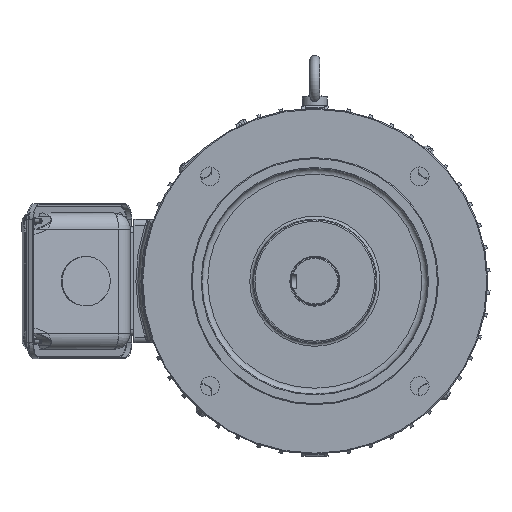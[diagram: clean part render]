
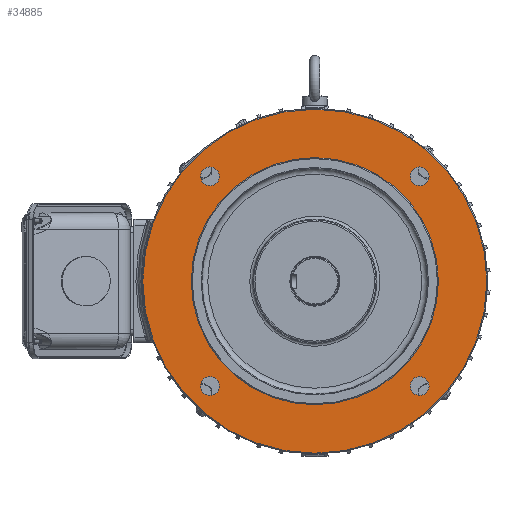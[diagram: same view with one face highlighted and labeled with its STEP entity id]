
A CAD part, front view. The second image highlights one B-rep face of the part: STEP entity #34885.
In plain terms, the highlighted planar face has unit normal (0, -1, 0).
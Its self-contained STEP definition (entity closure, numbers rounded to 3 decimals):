
#1495=CIRCLE('',#37258,9.5);
#1497=CIRCLE('',#37261,9.5);
#1529=CIRCLE('',#37349,125.);
#1532=CIRCLE('',#37354,9.5);
#1534=CIRCLE('',#37357,9.5);
#1617=CIRCLE('',#37482,174.);
#7408=ORIENTED_EDGE('',*,*,#15673,.T.);
#7409=ORIENTED_EDGE('',*,*,#15449,.F.);
#7410=ORIENTED_EDGE('',*,*,#15454,.F.);
#7411=ORIENTED_EDGE('',*,*,#15452,.F.);
#7412=ORIENTED_EDGE('',*,*,#15318,.F.);
#7413=ORIENTED_EDGE('',*,*,#15316,.F.);
#15316=EDGE_CURVE('',#19672,#19672,#1495,.T.);
#15318=EDGE_CURVE('',#19674,#19674,#1497,.T.);
#15449=EDGE_CURVE('',#19787,#19787,#1529,.T.);
#15452=EDGE_CURVE('',#19790,#19790,#1532,.T.);
#15454=EDGE_CURVE('',#19792,#19792,#1534,.T.);
#15673=EDGE_CURVE('',#19967,#19967,#1617,.T.);
#19672=VERTEX_POINT('',#57767);
#19674=VERTEX_POINT('',#57772);
#19787=VERTEX_POINT('',#58609);
#19790=VERTEX_POINT('',#58617);
#19792=VERTEX_POINT('',#58622);
#19967=VERTEX_POINT('',#59464);
#25482=EDGE_LOOP('',(#7408));
#25483=EDGE_LOOP('',(#7409));
#25484=EDGE_LOOP('',(#7410));
#25485=EDGE_LOOP('',(#7411));
#25486=EDGE_LOOP('',(#7412));
#25487=EDGE_LOOP('',(#7413));
#27864=FACE_BOUND('',#25482,.T.);
#27865=FACE_BOUND('',#25483,.T.);
#27866=FACE_BOUND('',#25484,.T.);
#27867=FACE_BOUND('',#25485,.T.);
#27868=FACE_BOUND('',#25486,.T.);
#27869=FACE_BOUND('',#25487,.T.);
#29787=PLANE('',#37481);
#34885=ADVANCED_FACE('',(#27864,#27865,#27866,#27867,#27868,#27869),#29787,
 .T.);
#37258=AXIS2_PLACEMENT_3D('',#57766,#42008,#42009);
#37261=AXIS2_PLACEMENT_3D('',#57771,#42014,#42015);
#37349=AXIS2_PLACEMENT_3D('',#58608,#42230,#42231);
#37354=AXIS2_PLACEMENT_3D('',#58616,#42240,#42241);
#37357=AXIS2_PLACEMENT_3D('',#58621,#42246,#42247);
#37481=AXIS2_PLACEMENT_3D('',#59462,#42570,#42571);
#37482=AXIS2_PLACEMENT_3D('',#59463,#42572,#42573);
#42008=DIRECTION('',(0.,-1.,0.));
#42009=DIRECTION('',(1.,0.,0.));
#42014=DIRECTION('',(0.,-1.,0.));
#42015=DIRECTION('',(0.,0.,-1.));
#42230=DIRECTION('',(0.,-1.,0.));
#42231=DIRECTION('',(1.,0.,0.));
#42240=DIRECTION('',(0.,-1.,0.));
#42241=DIRECTION('',(-1.,0.,0.));
#42246=DIRECTION('',(0.,-1.,0.));
#42247=DIRECTION('',(0.,0.,1.));
#42570=DIRECTION('',(0.,-1.,0.));
#42571=DIRECTION('',(1.,0.,0.));
#42572=DIRECTION('',(0.,-1.,0.));
#42573=DIRECTION('',(1.,0.,0.));
#57766=CARTESIAN_POINT('',(-106.066,5.,106.066));
#57767=CARTESIAN_POINT('',(-96.566,5.,106.066));
#57771=CARTESIAN_POINT('',(106.066,5.,106.066));
#57772=CARTESIAN_POINT('',(106.066,5.,96.566));
#58608=CARTESIAN_POINT('',(0.,5.,0.));
#58609=CARTESIAN_POINT('',(125.,5.,0.));
#58616=CARTESIAN_POINT('',(106.066,5.,-106.066));
#58617=CARTESIAN_POINT('',(96.566,5.,-106.066));
#58621=CARTESIAN_POINT('',(-106.066,5.,-106.066));
#58622=CARTESIAN_POINT('',(-106.066,5.,-96.566));
#59462=CARTESIAN_POINT('',(0.,5.,125.));
#59463=CARTESIAN_POINT('',(0.,5.,0.));
#59464=CARTESIAN_POINT('',(174.,5.,0.));
